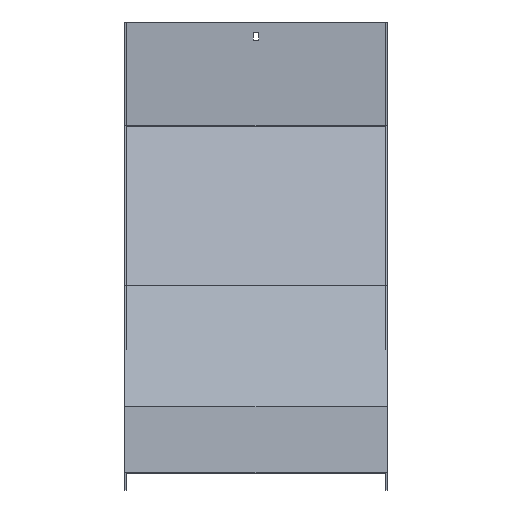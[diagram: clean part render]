
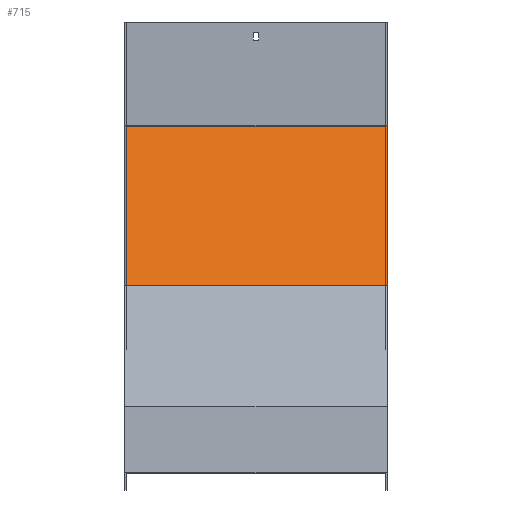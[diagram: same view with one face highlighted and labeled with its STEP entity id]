
A CAD part, top view. The second image highlights one B-rep face of the part: STEP entity #715.
In plain terms, the highlighted planar face has unit normal (0, 0.383, 0.924).
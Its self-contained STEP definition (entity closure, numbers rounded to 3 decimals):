
#32 = CARTESIAN_POINT ( 'NONE',  ( -151.5, 216.868, -444.566 ) ) ;
#46 = CARTESIAN_POINT ( 'NONE',  ( 151.5, 216.868, -444.566 ) ) ;
#52 = ORIENTED_EDGE ( 'NONE', *, *, #782, .T. ) ;
#56 = CARTESIAN_POINT ( 'NONE',  ( 151.5, 216.868, -444.566 ) ) ;
#70 = DIRECTION ( 'NONE',  ( 0., 0.924, -0.383 ) ) ;
#82 = EDGE_CURVE ( 'NONE', #1118, #223, #306, .T. ) ;
#122 = CARTESIAN_POINT ( 'NONE',  ( 151.5, 400.72, -520.72 ) ) ;
#204 = DIRECTION ( 'NONE',  ( 0., -0.924, 0.383 ) ) ;
#215 = ORIENTED_EDGE ( 'NONE', *, *, #532, .F. ) ;
#223 = VERTEX_POINT ( 'NONE', #765 ) ;
#306 = LINE ( 'NONE', #748, #576 ) ;
#373 = LINE ( 'NONE', #122, #737 ) ;
#383 = ORIENTED_EDGE ( 'NONE', *, *, #666, .T. ) ;
#399 = DIRECTION ( 'NONE',  ( 0., 0.383, 0.924 ) ) ;
#410 = DIRECTION ( 'NONE',  ( -1., 0., 0. ) ) ;
#486 = VECTOR ( 'NONE', #410, 1000. ) ;
#513 = CARTESIAN_POINT ( 'NONE',  ( 151.5, 216.868, -444.566 ) ) ;
#532 = EDGE_CURVE ( 'NONE', #703, #1118, #797, .T. ) ;
#564 = DIRECTION ( 'NONE',  ( 0., 0.924, -0.383 ) ) ;
#569 = CARTESIAN_POINT ( 'NONE',  ( 151.5, 216.868, -444.566 ) ) ;
#576 = VECTOR ( 'NONE', #564, 1000. ) ;
#666 = EDGE_CURVE ( 'NONE', #703, #841, #1031, .T. ) ;
#675 = ORIENTED_EDGE ( 'NONE', *, *, #82, .F. ) ;
#703 = VERTEX_POINT ( 'NONE', #46 ) ;
#715 = ADVANCED_FACE ( 'NONE', ( #907 ), #722, .T. ) ;
#722 = PLANE ( 'NONE',  #902 ) ;
#737 = VECTOR ( 'NONE', #816, 1000. ) ;
#748 = CARTESIAN_POINT ( 'NONE',  ( -151.5, 216.868, -444.566 ) ) ;
#757 = VECTOR ( 'NONE', #70, 1000. ) ;
#765 = CARTESIAN_POINT ( 'NONE',  ( -151.5, 400.72, -520.72 ) ) ;
#782 = EDGE_CURVE ( 'NONE', #841, #223, #373, .T. ) ;
#797 = LINE ( 'NONE', #56, #486 ) ;
#816 = DIRECTION ( 'NONE',  ( -1., 0., 0. ) ) ;
#841 = VERTEX_POINT ( 'NONE', #1092 ) ;
#902 = AXIS2_PLACEMENT_3D ( 'NONE', #569, #399, #204 ) ;
#907 = FACE_OUTER_BOUND ( 'NONE', #981, .T. ) ;
#981 = EDGE_LOOP ( 'NONE', ( #675, #215, #383, #52 ) ) ;
#1031 = LINE ( 'NONE', #513, #757 ) ;
#1092 = CARTESIAN_POINT ( 'NONE',  ( 151.5, 400.72, -520.72 ) ) ;
#1118 = VERTEX_POINT ( 'NONE', #32 ) ;
